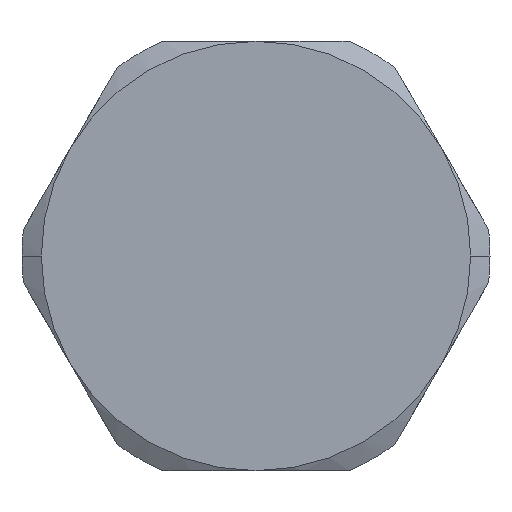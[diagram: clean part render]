
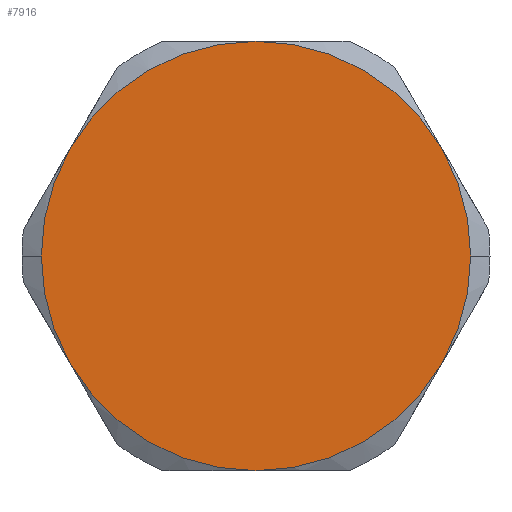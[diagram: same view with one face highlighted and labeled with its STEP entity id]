
A CAD part, left-side view. The second image highlights one B-rep face of the part: STEP entity #7916.
In plain terms, the highlighted planar face has unit normal (-1, 0, 0).
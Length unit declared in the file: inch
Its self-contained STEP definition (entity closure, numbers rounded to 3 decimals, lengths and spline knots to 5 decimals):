
#1008=CARTESIAN_POINT('',(-0.19302,-0.5,0.02598));
#1009=VERTEX_POINT('',#1008);
#1016=CARTESIAN_POINT('',(-0.19302,-0.43301,-0.22402));
#1017=VERTEX_POINT('',#1016);
#1018=CARTESIAN_POINT('',(-0.19302,0.0,0.02598));
#1019=DIRECTION('',(-1.0,0.0,0.0));
#1020=DIRECTION('',(0.0,1.0,0.0));
#1021=AXIS2_PLACEMENT_3D('',#1018,#1019,#1020);
#1022=CIRCLE('',#1021,0.5);
#1023=EDGE_CURVE('',#1017,#1009,#1022,.T.);
#1047=CARTESIAN_POINT('',(-0.19302,0.5,0.02598));
#1048=VERTEX_POINT('',#1047);
#1064=CARTESIAN_POINT('',(-0.19302,0.43301,-0.22402));
#1065=VERTEX_POINT('',#1064);
#1079=CARTESIAN_POINT('',(-0.19302,0.0,0.02598));
#1080=DIRECTION('',(-1.0,0.0,0.0));
#1081=DIRECTION('',(0.0,1.0,0.0));
#1082=AXIS2_PLACEMENT_3D('',#1079,#1080,#1081);
#1083=CIRCLE('',#1082,0.5);
#1084=EDGE_CURVE('',#1048,#1065,#1083,.T.);
#7204=CARTESIAN_POINT('',(-0.19302,0.,-0.47402));
#7205=VERTEX_POINT('',#7204);
#7242=CARTESIAN_POINT('',(-0.19302,0.0,0.02598));
#7243=DIRECTION('',(-1.0,0.0,0.0));
#7244=DIRECTION('',(0.0,1.0,0.0));
#7245=AXIS2_PLACEMENT_3D('',#7242,#7243,#7244);
#7246=CIRCLE('',#7245,0.5);
#7247=EDGE_CURVE('',#7205,#1017,#7246,.T.);
#7293=CARTESIAN_POINT('',(-0.19302,0.0,0.02598));
#7294=DIRECTION('',(-1.0,0.0,0.0));
#7295=DIRECTION('',(0.0,1.0,0.0));
#7296=AXIS2_PLACEMENT_3D('',#7293,#7294,#7295);
#7297=CIRCLE('',#7296,0.5);
#7298=EDGE_CURVE('',#1065,#7205,#7297,.T.);
#7309=CARTESIAN_POINT('',(-0.19302,0.43301,0.27598));
#7310=VERTEX_POINT('',#7309);
#7311=CARTESIAN_POINT('',(-0.19302,0.0,0.02598));
#7312=DIRECTION('',(-1.0,0.0,0.0));
#7313=DIRECTION('',(0.0,1.0,0.0));
#7314=AXIS2_PLACEMENT_3D('',#7311,#7312,#7313);
#7315=CIRCLE('',#7314,0.5);
#7316=EDGE_CURVE('',#7310,#1048,#7315,.T.);
#7355=CARTESIAN_POINT('',(-0.19302,0.,0.52598));
#7356=VERTEX_POINT('',#7355);
#7357=CARTESIAN_POINT('',(-0.19302,0.0,0.02598));
#7358=DIRECTION('',(-1.0,0.0,0.0));
#7359=DIRECTION('',(0.0,1.0,0.0));
#7360=AXIS2_PLACEMENT_3D('',#7357,#7358,#7359);
#7361=CIRCLE('',#7360,0.5);
#7362=EDGE_CURVE('',#7356,#7310,#7361,.T.);
#7408=CARTESIAN_POINT('',(-0.19302,-0.43301,0.27598));
#7409=VERTEX_POINT('',#7408);
#7410=CARTESIAN_POINT('',(-0.19302,0.0,0.02598));
#7411=DIRECTION('',(-1.0,0.0,0.0));
#7412=DIRECTION('',(0.0,1.0,0.0));
#7413=AXIS2_PLACEMENT_3D('',#7410,#7411,#7412);
#7414=CIRCLE('',#7413,0.5);
#7415=EDGE_CURVE('',#7409,#7356,#7414,.T.);
#7469=CARTESIAN_POINT('',(-0.19302,0.0,0.02598));
#7470=DIRECTION('',(-1.0,0.0,0.0));
#7471=DIRECTION('',(0.0,1.0,0.0));
#7472=AXIS2_PLACEMENT_3D('',#7469,#7470,#7471);
#7473=CIRCLE('',#7472,0.5);
#7474=EDGE_CURVE('',#1009,#7409,#7473,.T.);
#7901=CARTESIAN_POINT('',(-0.19302,0.,0.02598));
#7902=DIRECTION('',(1.0,0.0,0.0));
#7903=DIRECTION('',(0.0,0.0,-1.0));
#7904=AXIS2_PLACEMENT_3D('',#7901,#7902,#7903);
#7905=PLANE('',#7904);
#7906=ORIENTED_EDGE('',*,*,#1023,.T.);
#7907=ORIENTED_EDGE('',*,*,#7474,.T.);
#7908=ORIENTED_EDGE('',*,*,#7415,.T.);
#7909=ORIENTED_EDGE('',*,*,#7362,.T.);
#7910=ORIENTED_EDGE('',*,*,#7316,.T.);
#7911=ORIENTED_EDGE('',*,*,#1084,.T.);
#7912=ORIENTED_EDGE('',*,*,#7298,.T.);
#7913=ORIENTED_EDGE('',*,*,#7247,.T.);
#7914=EDGE_LOOP('',(#7906,#7907,#7908,#7909,#7910,#7911,#7912,#7913));
#7915=FACE_OUTER_BOUND('',#7914,.T.);
#7916=ADVANCED_FACE('',(#7915),#7905,.F.);
